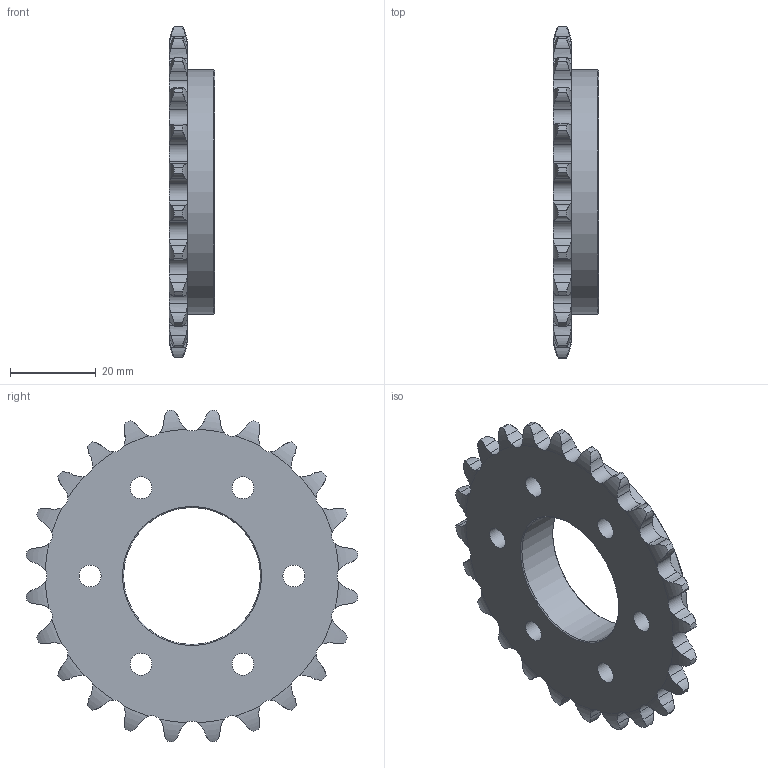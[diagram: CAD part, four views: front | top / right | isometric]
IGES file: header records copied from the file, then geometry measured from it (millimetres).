
Global section: file name: No Iges File Name specified; native system: AutoDesk Inventor R5.0; preprocessor: AutoDesk Inventor Iges Exporter R5.0; author: No Author specified; organization: No Organization specified; date: 20070114.060733; units: inch
Bounding box: 10.67 x 77.56 x 77.56 mm (x, y, z)
Surface area: 10843.8 mm2 (no closed solid volume)
Topology: 0 solids, 0 shells, 206 faces, 1208 edges, 1197 vertices
Faces by surface type: revolution 196, bspline 7, plane 3
